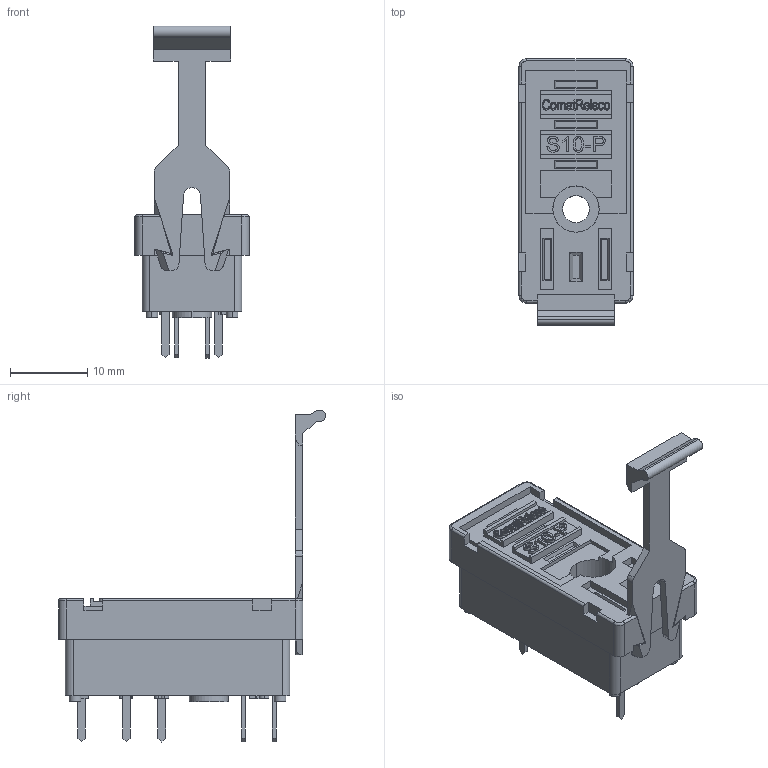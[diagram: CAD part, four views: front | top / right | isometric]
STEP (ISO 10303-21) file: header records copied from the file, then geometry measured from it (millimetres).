
FILE_DESCRIPTION (( 'STEP AP214' ), '1' );
FILE_NAME ('S10-P.STEP', '2024-04-09T10:47:46', ( '' ), ( '' ), 'SwSTEP 2.0', 'SolidWorks 2022', '' );
FILE_SCHEMA (( 'AUTOMOTIVE_DESIGN' ));
Length unit declared in the file: millimetre
Products named in the file (1): S10-P
Bounding box: 14.8 x 34.62 x 43.06 mm (x, y, z)
Volume: 4856.9 mm3; surface area: 3187.8 mm2
Topology: 1 solids, 1 shells, 541 faces, 1447 edges, 960 vertices
Faces by surface type: plane 348, bspline 144, cylinder 45, torus 4
Entity records: 25374 total; most frequent: CARTESIAN_POINT 12207, ORIENTED_EDGE 2894, DIRECTION 2029, EDGE_CURVE 1447, VECTOR 1057, LINE 1057, VERTEX_POINT 960, EDGE_LOOP 601
